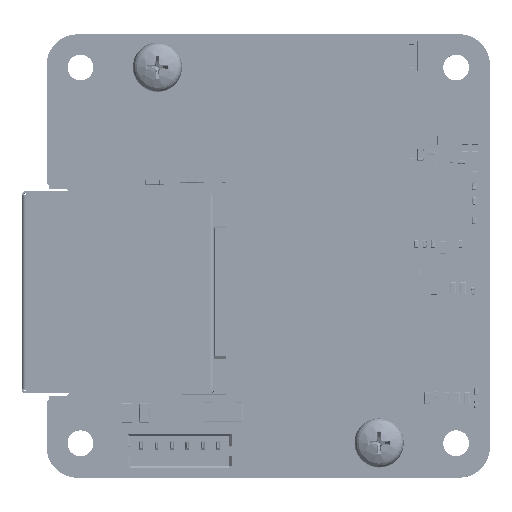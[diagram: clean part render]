
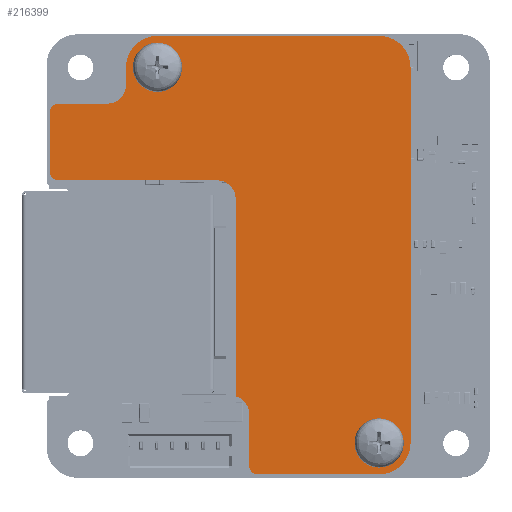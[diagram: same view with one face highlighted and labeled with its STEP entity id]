
A CAD part, top view. The second image highlights one B-rep face of the part: STEP entity #216399.
In plain terms, the highlighted planar face has unit normal (0, 0, 1).
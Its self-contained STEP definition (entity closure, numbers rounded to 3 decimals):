
#1086=FACE_BOUND('',#45160,.T.);
#1087=FACE_BOUND('',#45161,.T.);
#13999=CIRCLE('',#240062,0.7);
#14000=CIRCLE('',#240065,0.7);
#14001=CIRCLE('',#240068,1.499);
#14002=CIRCLE('',#240071,2.55);
#14003=CIRCLE('',#240074,2.55);
#14004=CIRCLE('',#240077,2.55);
#14005=CIRCLE('',#240080,0.7);
#14006=CIRCLE('',#240083,1.501);
#14007=CIRCLE('',#240086,1.499);
#14008=CIRCLE('',#240089,1.15);
#14009=CIRCLE('',#240091,1.15);
#31582=FACE_OUTER_BOUND('',#45159,.T.);
#45159=EDGE_LOOP('',(#184276,#184277,#184278,#184279,#184280,#184281,#184282,
#184283,#184284,#184285,#184286,#184287,#184288,#184289,#184290,#184291,
#184292,#184293));
#45160=EDGE_LOOP('',(#184294));
#45161=EDGE_LOOP('',(#184295));
#63615=LINE('',#364012,#82055);
#63618=LINE('',#364020,#82058);
#63621=LINE('',#364028,#82061);
#63624=LINE('',#364036,#82064);
#63627=LINE('',#364044,#82067);
#63630=LINE('',#364052,#82070);
#63633=LINE('',#364060,#82073);
#63636=LINE('',#364068,#82076);
#63639=LINE('',#364075,#82079);
#82055=VECTOR('',#304205,1.);
#82058=VECTOR('',#304214,1.);
#82061=VECTOR('',#304223,1.);
#82064=VECTOR('',#304232,1.);
#82067=VECTOR('',#304241,1.);
#82070=VECTOR('',#304250,1.);
#82073=VECTOR('',#304259,1.);
#82076=VECTOR('',#304268,1.);
#82079=VECTOR('',#304277,1.);
#98777=VERTEX_POINT('',#364005);
#98778=VERTEX_POINT('',#364007);
#98779=VERTEX_POINT('',#364011);
#98780=VERTEX_POINT('',#364015);
#98781=VERTEX_POINT('',#364019);
#98782=VERTEX_POINT('',#364023);
#98783=VERTEX_POINT('',#364027);
#98784=VERTEX_POINT('',#364031);
#98785=VERTEX_POINT('',#364035);
#98786=VERTEX_POINT('',#364039);
#98787=VERTEX_POINT('',#364043);
#98788=VERTEX_POINT('',#364047);
#98789=VERTEX_POINT('',#364051);
#98790=VERTEX_POINT('',#364055);
#98791=VERTEX_POINT('',#364059);
#98792=VERTEX_POINT('',#364063);
#98793=VERTEX_POINT('',#364067);
#98794=VERTEX_POINT('',#364071);
#98795=VERTEX_POINT('',#364077);
#98796=VERTEX_POINT('',#364081);
#127448=EDGE_CURVE('',#98777,#98778,#13999,.T.);
#127450=EDGE_CURVE('',#98778,#98779,#63615,.T.);
#127452=EDGE_CURVE('',#98779,#98780,#14000,.T.);
#127454=EDGE_CURVE('',#98780,#98781,#63618,.T.);
#127456=EDGE_CURVE('',#98781,#98782,#14001,.T.);
#127458=EDGE_CURVE('',#98782,#98783,#63621,.T.);
#127460=EDGE_CURVE('',#98783,#98784,#14002,.T.);
#127462=EDGE_CURVE('',#98784,#98785,#63624,.T.);
#127464=EDGE_CURVE('',#98785,#98786,#14003,.T.);
#127466=EDGE_CURVE('',#98786,#98787,#63627,.T.);
#127468=EDGE_CURVE('',#98787,#98788,#14004,.T.);
#127470=EDGE_CURVE('',#98788,#98789,#63630,.T.);
#127472=EDGE_CURVE('',#98789,#98790,#14005,.T.);
#127474=EDGE_CURVE('',#98790,#98791,#63633,.T.);
#127476=EDGE_CURVE('',#98791,#98792,#14006,.T.);
#127478=EDGE_CURVE('',#98792,#98793,#63636,.T.);
#127480=EDGE_CURVE('',#98793,#98794,#14007,.T.);
#127482=EDGE_CURVE('',#98794,#98777,#63639,.T.);
#127483=EDGE_CURVE('',#98795,#98795,#14008,.T.);
#127485=EDGE_CURVE('',#98796,#98796,#14009,.T.);
#184276=ORIENTED_EDGE('',*,*,#127448,.F.);
#184277=ORIENTED_EDGE('',*,*,#127482,.F.);
#184278=ORIENTED_EDGE('',*,*,#127480,.F.);
#184279=ORIENTED_EDGE('',*,*,#127478,.F.);
#184280=ORIENTED_EDGE('',*,*,#127476,.F.);
#184281=ORIENTED_EDGE('',*,*,#127474,.F.);
#184282=ORIENTED_EDGE('',*,*,#127472,.F.);
#184283=ORIENTED_EDGE('',*,*,#127470,.F.);
#184284=ORIENTED_EDGE('',*,*,#127468,.F.);
#184285=ORIENTED_EDGE('',*,*,#127466,.F.);
#184286=ORIENTED_EDGE('',*,*,#127464,.F.);
#184287=ORIENTED_EDGE('',*,*,#127462,.F.);
#184288=ORIENTED_EDGE('',*,*,#127460,.F.);
#184289=ORIENTED_EDGE('',*,*,#127458,.F.);
#184290=ORIENTED_EDGE('',*,*,#127456,.F.);
#184291=ORIENTED_EDGE('',*,*,#127454,.F.);
#184292=ORIENTED_EDGE('',*,*,#127452,.F.);
#184293=ORIENTED_EDGE('',*,*,#127450,.F.);
#184294=ORIENTED_EDGE('',*,*,#127483,.F.);
#184295=ORIENTED_EDGE('',*,*,#127485,.F.);
#190969=PLANE('',#240092);
#216399=ADVANCED_FACE('',(#31582,#1086,#1087),#190969,.F.);
#240062=AXIS2_PLACEMENT_3D('',#364008,#304200,#304201);
#240065=AXIS2_PLACEMENT_3D('',#364016,#304209,#304210);
#240068=AXIS2_PLACEMENT_3D('',#364024,#304218,#304219);
#240071=AXIS2_PLACEMENT_3D('',#364032,#304227,#304228);
#240074=AXIS2_PLACEMENT_3D('',#364040,#304236,#304237);
#240077=AXIS2_PLACEMENT_3D('',#364048,#304245,#304246);
#240080=AXIS2_PLACEMENT_3D('',#364056,#304254,#304255);
#240083=AXIS2_PLACEMENT_3D('',#364064,#304263,#304264);
#240086=AXIS2_PLACEMENT_3D('',#364072,#304272,#304273);
#240089=AXIS2_PLACEMENT_3D('',#364078,#304280,#304281);
#240091=AXIS2_PLACEMENT_3D('',#364082,#304285,#304286);
#240092=AXIS2_PLACEMENT_3D('',#364084,#304288,#304289);
#304200=DIRECTION('center_axis',(0.,0.,-1.));
#304201=DIRECTION('ref_axis',(0.,-1.,0.));
#304205=DIRECTION('',(0.,1.,0.));
#304209=DIRECTION('center_axis',(0.,0.,-1.));
#304210=DIRECTION('ref_axis',(-1.,0.,0.));
#304214=DIRECTION('',(1.,0.,0.));
#304218=DIRECTION('center_axis',(0.,0.,1.));
#304219=DIRECTION('ref_axis',(-0.001,-1.,
0.));
#304223=DIRECTION('',(0.,1.,0.));
#304227=DIRECTION('center_axis',(0.,0.,-1.));
#304228=DIRECTION('ref_axis',(-1.,0.,0.));
#304232=DIRECTION('',(1.,0.,0.));
#304236=DIRECTION('center_axis',(0.,0.,-1.));
#304237=DIRECTION('ref_axis',(0.,1.,0.));
#304241=DIRECTION('',(0.,-1.,0.));
#304245=DIRECTION('center_axis',(0.,0.,-1.));
#304246=DIRECTION('ref_axis',(1.,0.,0.));
#304250=DIRECTION('',(-1.,0.,0.));
#304254=DIRECTION('center_axis',(0.,0.,-1.));
#304255=DIRECTION('ref_axis',(0.,-1.,0.));
#304259=DIRECTION('',(0.,1.,0.));
#304263=DIRECTION('center_axis',(0.,0.,1.));
#304264=DIRECTION('ref_axis',(1.,0.,0.));
#304268=DIRECTION('',(0.,1.,0.));
#304272=DIRECTION('center_axis',(0.,0.,1.));
#304273=DIRECTION('ref_axis',(1.,-0.001,0.));
#304277=DIRECTION('',(-1.,0.,0.));
#304280=DIRECTION('center_axis',(0.,0.,1.));
#304281=DIRECTION('ref_axis',(1.,0.,0.));
#304285=DIRECTION('center_axis',(0.,0.,1.));
#304286=DIRECTION('ref_axis',(1.,0.,0.));
#304288=DIRECTION('center_axis',(0.,0.,-1.));
#304289=DIRECTION('ref_axis',(-1.,0.,0.));
#364005=CARTESIAN_POINT('',(-26.05,21.325,0.));
#364007=CARTESIAN_POINT('',(-26.75,22.025,0.));
#364008=CARTESIAN_POINT('Origin',(-26.05,22.025,0.));
#364011=CARTESIAN_POINT('',(-26.75,26.85,0.));
#364012=CARTESIAN_POINT('',(-26.75,22.025,0.));
#364015=CARTESIAN_POINT('',(-26.05,27.55,0.));
#364016=CARTESIAN_POINT('Origin',(-26.05,26.85,0.));
#364019=CARTESIAN_POINT('',(-22.05,27.55,0.));
#364020=CARTESIAN_POINT('',(-26.05,27.55,0.));
#364023=CARTESIAN_POINT('',(-20.55,29.05,0.));
#364024=CARTESIAN_POINT('Origin',(-22.049,29.049,0.));
#364027=CARTESIAN_POINT('',(-20.55,30.5,0.));
#364028=CARTESIAN_POINT('',(-20.55,29.05,0.));
#364031=CARTESIAN_POINT('',(-18.,33.05,0.));
#364032=CARTESIAN_POINT('Origin',(-18.,30.5,0.));
#364035=CARTESIAN_POINT('',(0.,33.05,0.));
#364036=CARTESIAN_POINT('',(-18.,33.05,0.));
#364039=CARTESIAN_POINT('',(2.55,30.5,0.));
#364040=CARTESIAN_POINT('Origin',(0.,30.5,0.));
#364043=CARTESIAN_POINT('',(2.55,0.,0.));
#364044=CARTESIAN_POINT('',(2.55,30.5,0.));
#364047=CARTESIAN_POINT('',(0.,-2.55,0.));
#364048=CARTESIAN_POINT('Origin',(0.,0.,
0.));
#364051=CARTESIAN_POINT('',(-9.85,-2.55,0.));
#364052=CARTESIAN_POINT('',(0.,-2.55,0.));
#364055=CARTESIAN_POINT('',(-10.55,-1.85,0.));
#364056=CARTESIAN_POINT('Origin',(-9.85,-1.85,0.));
#364059=CARTESIAN_POINT('',(-10.55,2.35,0.));
#364060=CARTESIAN_POINT('',(-10.55,-1.85,0.));
#364063=CARTESIAN_POINT('',(-11.65,3.796,0.));
#364064=CARTESIAN_POINT('Origin',(-12.051,2.35,0.));
#364067=CARTESIAN_POINT('',(-11.65,19.825,0.));
#364068=CARTESIAN_POINT('',(-11.65,3.796,0.));
#364071=CARTESIAN_POINT('',(-13.15,21.325,0.));
#364072=CARTESIAN_POINT('Origin',(-13.149,19.826,0.));
#364075=CARTESIAN_POINT('',(-13.15,21.325,0.));
#364077=CARTESIAN_POINT('',(-19.15,30.5,0.));
#364078=CARTESIAN_POINT('Origin',(-18.,30.5,0.));
#364081=CARTESIAN_POINT('',(-1.15,0.,0.));
#364082=CARTESIAN_POINT('Origin',(0.,0.,0.));
#364084=CARTESIAN_POINT('Origin',(-8.943,17.735,0.));
